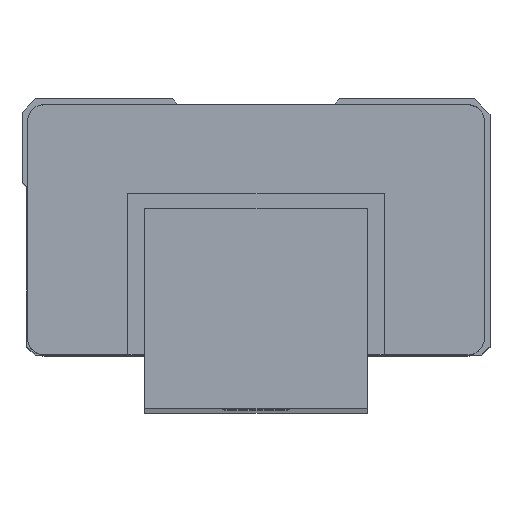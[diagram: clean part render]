
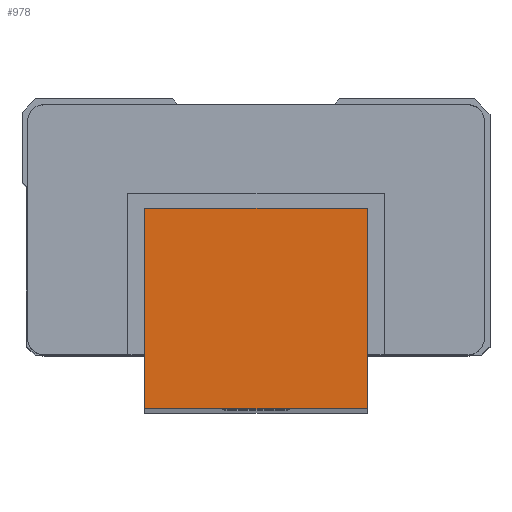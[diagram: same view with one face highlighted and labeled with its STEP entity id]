
A CAD part, top view. The second image highlights one B-rep face of the part: STEP entity #978.
In plain terms, the highlighted planar face has unit normal (0, 0, 1).
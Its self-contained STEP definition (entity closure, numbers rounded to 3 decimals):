
#824=CARTESIAN_POINT('',(20.,18.,220.0));
#825=VERTEX_POINT('',#824);
#826=CARTESIAN_POINT('',(20.,0.,220.0));
#827=VERTEX_POINT('',#826);
#828=CARTESIAN_POINT('',(20.,18.,220.0));
#829=DIRECTION('',(0.0,-1.0,0.0));
#830=VECTOR('',#829,1.0);
#831=LINE('',#828,#830);
#832=EDGE_CURVE('',#825,#827,#831,.T.);
#864=CARTESIAN_POINT('',(0.,0.,220.0));
#865=VERTEX_POINT('',#864);
#866=CARTESIAN_POINT('',(20.,0.,220.0));
#867=DIRECTION('',(-1.0,0.0,0.0));
#868=VECTOR('',#867,1.0);
#869=LINE('',#866,#868);
#870=EDGE_CURVE('',#827,#865,#869,.T.);
#907=CARTESIAN_POINT('',(0.,18.,220.0));
#908=VERTEX_POINT('',#907);
#909=CARTESIAN_POINT('',(0.,0.,220.0));
#910=DIRECTION('',(0.0,1.0,0.0));
#911=VECTOR('',#910,1.0);
#912=LINE('',#909,#911);
#913=EDGE_CURVE('',#865,#908,#912,.T.);
#938=CARTESIAN_POINT('',(0.,18.,220.0));
#939=DIRECTION('',(1.0,0.0,0.0));
#940=VECTOR('',#939,1.0);
#941=LINE('',#938,#940);
#942=EDGE_CURVE('',#908,#825,#941,.T.);
#967=CARTESIAN_POINT('',(-1.,-0.9,220.0));
#968=DIRECTION('',(0.0,0.0,1.0));
#969=DIRECTION('',(1.0,0.0,0.0));
#970=AXIS2_PLACEMENT_3D('',#967,#968,#969);
#971=PLANE('',#970);
#972=ORIENTED_EDGE('',*,*,#832,.F.);
#973=ORIENTED_EDGE('',*,*,#942,.F.);
#974=ORIENTED_EDGE('',*,*,#913,.F.);
#975=ORIENTED_EDGE('',*,*,#870,.F.);
#976=EDGE_LOOP('',(#972,#973,#974,#975));
#977=FACE_OUTER_BOUND('',#976,.T.);
#978=ADVANCED_FACE('',(#977),#971,.T.);
